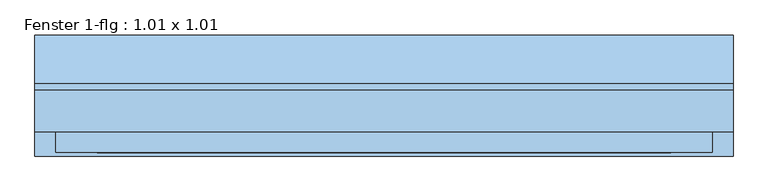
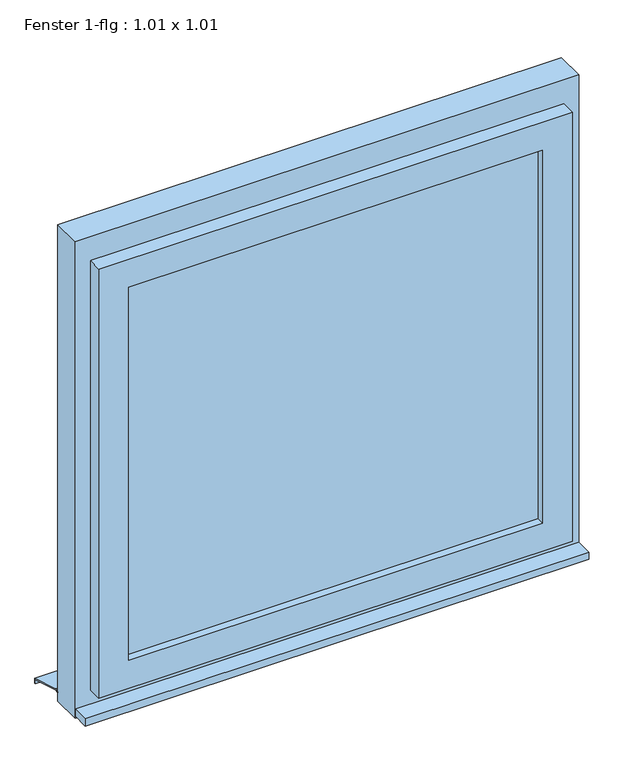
"""IFC4 building model written with IfcOpenShell, lengths in millimetres: window geometry, Fenster 1-flg : 1.01 x 1.01."""

from ifc_helpers import new_model, si_unit, frame, origin, place, context, project, spatial, polyline, outline, extrude, faceted_brep, source, transform, mapped, element, save


def fenster_1_flg_1_01_x_1_01_41c35c17(model_context):
    return source(origin(), model_context, "Body", "SolidModel", [
        extrude(outline(polyline([(2010.0, 505.0), (2010.0, -505.0), (1000.0, -505.0), (1000.0, 505.0), (2010.0, 505.0)]), holes=[polyline([(1930.0, 445.0), (1080.0, 445.0), (1080.0, -445.0), (1930.0, -445.0), (1930.0, 445.0)])]), frame((0.0, -52.5, 0.0), z_axis=(0.0, 1.0, 0.0), x_axis=(0.0, 0.0, 1.0)), (0.0, 0.0, 1.0), 60.0),
        faceted_brep([(475.0, -52.5, 1960.0), (475.0, -82.5, 1960.0), (475.0, -82.5, 1050.0), (475.0, -52.5, 1050.0), (445.0, -22.5, 1930.0), (445.0, -52.5, 1930.0), (445.0, -52.5, 1080.0), (445.0, -22.5, 1080.0), (415.0, -82.5, 1900.0), (415.0, -22.5, 1900.0), (415.0, -22.5, 1110.0), (415.0, -82.5, 1110.0), (-475.0, -82.5, 1050.0), (-475.0, -52.5, 1050.0), (-445.0, -52.5, 1080.0), (-445.0, -22.5, 1080.0), (-415.0, -22.5, 1110.0), (-415.0, -82.5, 1110.0), (-475.0, -82.5, 1960.0), (-475.0, -52.5, 1960.0), (-445.0, -52.5, 1930.0), (-445.0, -22.5, 1930.0), (-415.0, -22.5, 1900.0), (-415.0, -82.5, 1900.0)], [[[0, 1, 2, 3]], [[4, 5, 6, 7]], [[8, 9, 10, 11]], [[3, 2, 12, 13]], [[7, 6, 14, 15]], [[11, 10, 16, 17]], [[13, 12, 18, 19]], [[15, 14, 20, 21]], [[17, 16, 22, 23]], [[19, 18, 1, 0]], [[3, 13, 19, 0], [5, 20, 14, 6]], [[21, 20, 5, 4]], [[7, 15, 21, 4], [9, 22, 16, 10]], [[23, 22, 9, 8]], [[1, 18, 12, 2], [11, 17, 23, 8]]]),
        extrude(outline(polyline([(-505.0, -87.5), (-505.0, -52.5), (505.0, -52.5), (505.0, -87.5), (-505.0, -87.5)])), frame((0.0, 0.0, 1005.0), z_axis=(0.0, 0.0, 1.0), x_axis=(1.0, 0.0, 0.0)), (0.0, 0.0, 1.0), 15.0),
        extrude(outline(polyline([(17.5221543, 1020.0), (87.5, 1000.0), (87.5, 990.0), (85.5, 990.0), (85.5, 998.3604634), (17.3240723, 1018.0), (7.5, 1018.0), (7.5, 1020.0), (17.5221543, 1020.0)])), frame((-505.0, 0.0, 0.0), z_axis=(1.0, 0.0, 0.0), x_axis=(0.0, 1.0, 0.0)), (0.0, 0.0, 1.0), 1010.0),
        extrude(outline(polyline([(415.0, -67.5), (-415.0, -67.5), (-415.0, -37.5), (415.0, -37.5), (415.0, -67.5)])), frame((0.0, 0.0, 1110.0), z_axis=(0.0, 0.0, 1.0), x_axis=(1.0, 0.0, 0.0)), (0.0, 0.0, 1.0), 790.0),
    ])


if __name__ == "__main__":
    model = new_model("IFC4")
    model_context = context("Model", 3, world=origin())
    ifc_project = project(units=[si_unit("LENGTHUNIT", "METRE", prefix="MILLI")], contexts=[model_context])
    site = spatial("IfcSite", under=ifc_project)
    building = spatial("IfcBuilding", under=site)
    placement = place(None, origin())
    fenster_1_flg_1_01_x_1_01_shape = fenster_1_flg_1_01_x_1_01_41c35c17(model_context)
    element("IfcWindow", 1, ObjectType="Fenster 1-flg : 1.01 x 1.01", at=placement, inside=building, context=model_context, shape_type="MappedRepresentation", body=[
        mapped(fenster_1_flg_1_01_x_1_01_shape, transform((0.0, 0.0, 0.0), x_axis=(1.0, 0.0, 0.0), y_axis=(0.0, 1.0, 0.0), z_axis=(0.0, 0.0, 1.0))),
    ])
    save(model, "model.ifc")
